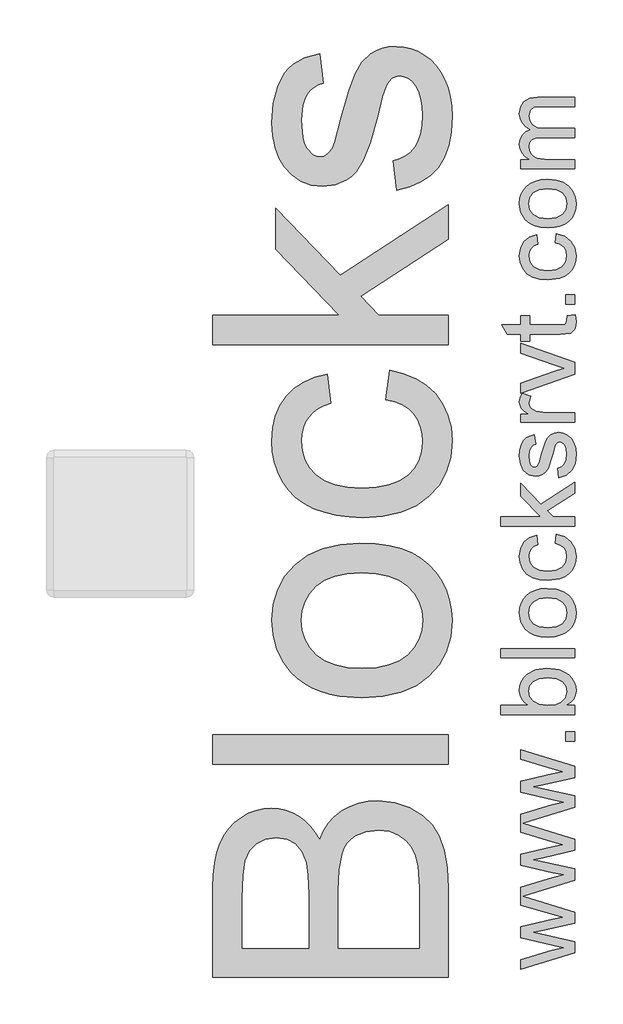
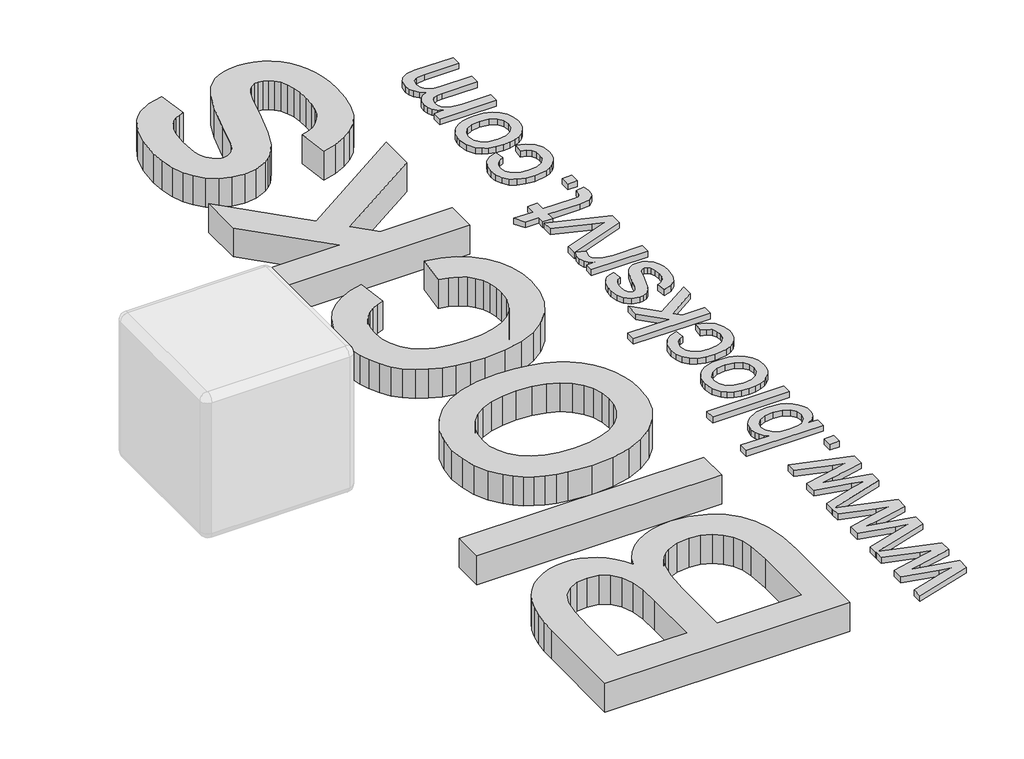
# One storey, part 6 of 6: 2 proxies.
"""IFC4 building model written with IfcOpenShell, lengths in millimetres."""

from ifc_helpers import new_model, si_unit, origin, origin_with_axes, place, context, project, spatial, polyline, outline, extrude, element, save

model = new_model("IFC4")

# Units and contexts
model_context = context("Model", 3, world=origin())
ifc_project = project(units=[si_unit("LENGTHUNIT", "METRE", prefix="MILLI")], contexts=[model_context])

# Site, building, storey
site = spatial("IfcSite", under=ifc_project)
building = spatial("IfcBuilding", under=site)
storey = spatial("IfcBuildingStorey", under=building, Name="PORTOBELLO - SHOWROOM", Elevation=0.0)

# Proxies
placement = place(None, origin())
element("IfcBuildingElementProxy", 1, Name="25mm Arial", ObjectType="25mm Arial", at=placement, inside=storey, context=model_context, shape_type="SweptSolid", body=[
    extrude(outline(polyline([(2978.9669276, 6669.5193044), (2800.9469451, 6615.1308855), (2978.9669276, 6560.5649202), (2978.9669276, 6522.6730747), (2870.809621, 6498.5154903), (2837.0871048, 6491.5257324), (2978.9669276, 6460.4397038), (2978.9669276, 6422.3026036), (2800.9469451, 6367.9141848), (2978.9669276, 6313.3482194), (2978.9669276, 6275.4563739), (2870.809621, 6251.2987896), (2837.0871048, 6244.3090316), (2978.9669276, 6213.2230031), (2978.9669276, 6175.0859029), (2794.5354207, 6118.738644), (2794.5354207, 6151.2962005), (2902.1409042, 6183.1793068), (2940.5845727, 6192.682925), (2903.5511186, 6200.4697606), (2794.5354207, 6225.7923046), (2794.5354207, 6263.0710134), (2903.2445502, 6288.3935574), (2936.7831255, 6295.3220016), (2901.4051403, 6305.2548155), (2794.5354207, 6337.1379218), (2794.5354207, 6365.9553447), (2794.5354207, 6369.8794193), (2794.5354207, 6398.5129013), (2902.1409042, 6430.3960075), (2940.5845727, 6439.8996257), (2903.5511186, 6447.6864613), (2794.5354207, 6473.0090053), (2794.5354207, 6510.2877142), (2903.2445502, 6535.6102582), (2936.7831255, 6542.5387024), (2901.4051403, 6552.4715163), (2794.5354207, 6584.3546225), (2794.5354207, 6613.1720455), (2794.5354207, 6617.0961201), (2794.5354207, 6645.7296021), (2902.1409042, 6677.6127083), (2940.5845727, 6687.1163265), (2903.5511186, 6694.9031621), (2794.5354207, 6720.2257061), (2794.5354207, 6757.5044149), (2903.2445502, 6782.8269589), (2936.7831255, 6789.7554032), (2901.4051403, 6799.688217), (2794.5354207, 6831.5713233), (2794.5354207, 6864.3128209), (2978.9669276, 6807.7816209), (2978.9669276, 6769.8897754), (2870.809621, 6745.7321911), (2837.0871048, 6738.7424332), (2978.9669276, 6707.6564046), (2978.9669276, 6669.5193044)])), origin_with_axes(), (0.0, 0.0, 1.0), 20.0),
    extrude(outline(polyline([(2978.9669276, 6893.7433805), (2947.5743307, 6893.7433805), (2947.5743307, 6925.1359774), (2978.9669276, 6925.1359774), (2978.9669276, 6893.7433805)])), origin_with_axes(), (0.0, 0.0, 1.0), 20.0),
    extrude(outline(polyline([(2978.9669276, 7015.3896935), (2978.9669276, 6983.9970966), (2727.8261522, 6983.9970966), (2727.8261522, 7015.3896935), (2820.9616106, 7015.3896935), (2807.6833699, 7025.713382), (2798.1989122, 7037.3706427), (2792.5082376, 7050.3614757), (2790.611346, 7064.6858809), (2792.3204645, 7080.8573603), (2797.4478198, 7096.1397915), (2805.6715152, 7109.6594548), (2816.669654, 7120.5426305), (2846.5600661, 7135.5338218), (2883.9920592, 7140.9600812), (2925.8999498, 7135.3422166), (2942.8301858, 7128.3198858), (2957.0779489, 7118.4886227), (2968.3711597, 7106.6876581), (2976.4377389, 7093.7562227), (2981.2776864, 7079.6943167), (2982.8910022, 7064.5019399), (2980.8101697, 7049.7061859), (2974.567672, 7036.5888935), (2964.1635094, 7025.1500627), (2949.5976816, 7015.3896935), (2978.9669276, 7015.3896935)]), holes=[polyline([(2885.4635871, 7015.3896935), (2911.6445225, 7017.5356718), (2929.3641719, 7023.9736068), (2945.9648469, 7040.4209976), (2951.4984053, 7061.8041386), (2947.4210465, 7079.9223269), (2935.1889701, 7095.4040275), (2914.8788183, 7106.0266201), (2886.5672331, 7109.5674843), (2857.8417807, 7106.1722401), (2837.7615551, 7095.9865073), (2825.943346, 7080.9876518), (2822.003943, 7063.1530392), (2826.0813017, 7045.034851), (2838.3133781, 7029.5531504), (2858.2556479, 7018.9305577), (2885.4635871, 7015.3896935)])]), origin_with_axes(), (0.0, 0.0, 1.0), 20.0),
    extrude(outline(polyline([(2978.9669276, 7176.2767528), (2727.8261522, 7176.2767528), (2727.8261522, 7207.6693497), (2978.9669276, 7207.6693497), (2978.9669276, 7176.2767528)])), origin_with_axes(), (0.0, 0.0, 1.0), 20.0),
    extrude(outline(polyline([(2886.7511741, 7246.9100958), (2862.8656692, 7248.607718), (2842.2834379, 7253.7005843), (2825.0044805, 7262.1886949), (2811.0287968, 7274.0720498), (2795.7157087, 7299.2413096), (2790.611346, 7329.3769764), (2792.1652643, 7346.696171), (2796.8270189, 7362.3560644), (2804.59661, 7376.3566568), (2815.4740376, 7388.6979481), (2829.0914195, 7398.7706338), (2845.080874, 7405.9654093), (2863.4424008, 7410.2822746), (2884.1760002, 7411.7212297), (2915.8904938, 7409.1767125), (2940.0327498, 7401.5431611), (2958.112617, 7389.0428375), (2971.6399445, 7371.8980037), (2980.0782378, 7351.5342024), (2982.8910022, 7329.3769764), (2981.3428321, 7311.804863), (2976.6983219, 7295.9993496), (2968.9574716, 7281.9604361), (2958.1202812, 7269.6881227), (2944.3706916, 7259.7227359), (2927.8926439, 7252.6046026), (2908.6861381, 7248.3337225), (2886.7511741, 7246.9100958)]), holes=[polyline([(2886.6898605, 7278.3026928), (2915.1010804, 7281.9355275), (2935.3422543, 7292.8340316), (2947.4593675, 7309.2354372), (2951.4984053, 7329.3769764), (2947.4363749, 7349.4265452), (2935.2502838, 7365.7972939), (2914.7408626, 7376.6957981), (2885.7088418, 7380.3286328), (2858.1253564, 7376.6728054), (2838.1600939, 7365.7053234), (2826.0429807, 7349.311582), (2822.003943, 7329.3769764), (2826.0276523, 7309.2354372), (2838.0987803, 7292.8340316), (2858.2939689, 7281.9355275), (2886.6898605, 7278.3026928)])]), origin_with_axes(), (0.0, 0.0, 1.0), 20.0),
    extrude(outline(polyline([(2912.2576591, 7564.7601397), (2916.1817337, 7596.1527366), (2944.1024443, 7587.4002108), (2965.2020096, 7570.9528199), (2978.468754, 7548.358734), (2982.8910022, 7521.1661232), (2981.3485803, 7503.5595209), (2976.7213146, 7487.773168), (2969.009205, 7473.8070645), (2958.2122517, 7461.6612105), (2944.533556, 7451.8299474), (2928.1762196, 7444.8076166), (2887.4256244, 7439.189752), (2859.4895854, 7441.5886492), (2835.2783516, 7448.7853407), (2815.7269564, 7460.8947897), (2801.7704332, 7478.0319593), (2793.4011178, 7498.5337163), (2790.611346, 7520.7369276), (2794.4434502, 7547.2627523), (2805.9397625, 7568.4696165), (2824.4871464, 7583.6830698), (2849.4724653, 7592.228662), (2853.3965399, 7560.8360651), (2839.7005998, 7555.1415583), (2829.882749, 7546.2740694), (2823.9736445, 7534.7241076), (2822.003943, 7520.9821822), (2825.8820323, 7500.695023), (2837.5163004, 7484.5925216), (2857.5352123, 7474.0848921), (2886.5672331, 7470.5823489), (2915.9901285, 7474.00825), (2936.0780183, 7484.2859532), (2947.6433085, 7500.0972148), (2951.4984053, 7520.1237909), (2949.0918439, 7536.3795766), (2941.8721597, 7549.7076347), (2929.6554118, 7559.4028581), (2912.2576591, 7564.7601397)])), origin_with_axes(), (0.0, 0.0, 1.0), 20.0),
    extrude(outline(polyline([(2978.9669276, 7623.6212589), (2727.8261522, 7623.6212589), (2727.8261522, 7655.0138558), (2862.7775308, 7655.0138558), (2794.5354207, 7725.4019442), (2794.5354207, 7768.8120197), (2863.6359221, 7697.5042263), (2978.9669276, 7772.7360943), (2978.9669276, 7736.0705221), (2885.4635871, 7675.0021109), (2904.9000192, 7655.0138558), (2978.9669276, 7655.0138558), (2978.9669276, 7623.6212589)])), origin_with_axes(), (0.0, 0.0, 1.0), 20.0),
    extrude(outline(polyline([(2924.029883, 7788.4323927), (2920.1058083, 7819.8249897), (2933.5335012, 7824.7760682), (2943.4050014, 7834.3563285), (2949.4750543, 7848.6270842), (2951.4984053, 7867.649649), (2949.6436669, 7886.4422876), (2944.0794517, 7899.6553826), (2936.0167046, 7907.472875), (2926.6663706, 7910.0787058), (2918.6649372, 7907.4575466), (2912.5642274, 7899.5940689), (2903.6124322, 7867.281767), (2888.2533589, 7820.0089307), (2880.5355012, 7808.0451016), (2870.3191117, 7799.3768821), (2858.2556479, 7794.111571), (2844.9965677, 7792.3564674), (2821.6054041, 7797.9973246), (2803.7324705, 7813.3870547), (2794.4434502, 7833.344653), (2790.611346, 7860.3533228), (2792.1518519, 7880.7861019), (2796.7733695, 7898.5517366), (2804.0237105, 7912.8378208), (2813.4506866, 7922.8319483), (2825.7517408, 7929.4538242), (2841.624316, 7933.6231535), (2845.5483907, 7902.2305566), (2835.6692262, 7898.2681609), (2828.2272801, 7890.4276759), (2823.5597772, 7878.6324594), (2822.003943, 7862.8058694), (2823.4907994, 7844.7796517), (2827.9513686, 7832.7621732), (2834.3893035, 7826.0023415), (2841.808257, 7823.7490643), (2850.9439933, 7827.4891979), (2857.8724375, 7839.2001081), (2864.5556271, 7866.2394347), (2879.3322205, 7912.3166546), (2886.3986205, 7924.4874173), (2896.0708513, 7933.715124), (2908.3795697, 7939.532258), (2923.3554326, 7941.4713027), (2938.8371333, 7939.1950329), (2953.3991289, 7932.3662233), (2965.8994525, 7921.2454572), (2975.1961371, 7906.0933175), (2980.9672859, 7887.7911883), (2982.8910022, 7867.2204534), (2979.1815254, 7835.5672734), (2968.0530951, 7812.4673498), (2949.6283385, 7797.0469628), (2924.029883, 7788.4323927)])), origin_with_axes(), (0.0, 0.0, 1.0), 20.0),
    extrude(outline(polyline([(2978.9669276, 8139.8823255), (2794.5354207, 8074.8898396), (2794.5354207, 8108.0605329), (2905.0226465, 8147.4239064), (2942.1787281, 8159.2574439), (2907.1073112, 8170.8457267), (2794.5354207, 8210.3930412), (2794.5354207, 8243.6250481), (2978.9669276, 8179.5522673), (2978.9669276, 8139.8823255)])), origin_with_axes(), (0.0, 0.0, 1.0), 20.0),
    extrude(outline(polyline([(2978.9669276, 7976.7879743), (2794.5354207, 7976.7879743), (2794.5354207, 8004.2564966), (2821.820002, 8004.2564966), (2806.0010762, 8014.4039083), (2796.681399, 8023.7542423), (2790.611346, 8043.3746154), (2793.0332358, 8059.0096002), (2800.2989052, 8074.8898396), (2828.4418779, 8064.4052028), (2822.003943, 8042.3322831), (2823.552113, 8032.9589564), (2828.1966232, 8024.5819768), (2845.3644497, 8013.2696055), (2882.0300218, 8008.1805712), (2978.9669276, 8008.1805712), (2978.9669276, 7976.7879743)])), origin_with_axes(), (0.0, 0.0, 1.0), 20.0),
    extrude(outline(polyline([(2952.7859923, 8337.8028389), (2979.8866326, 8341.7269135), (2982.8910022, 8318.2437795), (2981.5880868, 8303.1759461), (2977.6793406, 8291.9402168), (2964.0063931, 8278.8190923), (2928.3831532, 8275.017645), (2825.9280176, 8275.017645), (2825.9280176, 8251.4731973), (2794.5354207, 8251.4731973), (2794.5354207, 8275.017645), (2749.7151309, 8275.017645), (2731.2597175, 8306.4102419), (2794.5354207, 8306.4102419), (2794.5354207, 8337.8028389), (2825.9280176, 8337.8028389), (2825.9280176, 8306.4102419), (2927.4634482, 8306.4102419), (2943.650256, 8308.0657109), (2949.3830838, 8313.4306567), (2951.4984053, 8324.1298914), (2952.7859923, 8337.8028389)])), origin_with_axes(), (0.0, 0.0, 1.0), 20.0),
    extrude(outline(polyline([(2978.9669276, 8377.043585), (2947.5743307, 8377.043585), (2947.5743307, 8408.4361819), (2978.9669276, 8408.4361819), (2978.9669276, 8377.043585)])), origin_with_axes(), (0.0, 0.0, 1.0), 20.0),
    extrude(outline(polyline([(2912.2576591, 8585.0195396), (2916.1817337, 8616.4121365), (2944.1024443, 8607.6596107), (2965.2020096, 8591.2122199), (2978.468754, 8568.618134), (2982.8910022, 8541.4255232), (2981.3485803, 8523.8189208), (2976.7213146, 8508.0325679), (2969.009205, 8494.0664645), (2958.2122517, 8481.9206105), (2944.533556, 8472.0893474), (2928.1762196, 8465.0670166), (2887.4256244, 8459.4491519), (2859.4895854, 8461.8480491), (2835.2783516, 8469.0447406), (2815.7269564, 8481.1541897), (2801.7704332, 8498.2913593), (2793.4011178, 8518.7931163), (2790.611346, 8540.9963275), (2794.4434502, 8567.5221522), (2805.9397625, 8588.7290164), (2824.4871464, 8603.9424698), (2849.4724653, 8612.4880619), (2853.3965399, 8581.095465), (2839.7005998, 8575.4009583), (2829.882749, 8566.5334694), (2823.9736445, 8554.9835076), (2822.003943, 8541.2415822), (2825.8820323, 8520.954423), (2837.5163004, 8504.8519215), (2857.5352123, 8494.344292), (2886.5672331, 8490.8417489), (2915.9901285, 8494.2676499), (2936.0780183, 8504.5453532), (2947.6433085, 8520.3566148), (2951.4984053, 8540.3831909), (2949.0918439, 8556.6389765), (2941.8721597, 8569.9670347), (2929.6554118, 8579.6622581), (2912.2576591, 8585.0195396)])), origin_with_axes(), (0.0, 0.0, 1.0), 20.0),
    extrude(outline(polyline([(2886.7511741, 8636.0325096), (2862.8656692, 8637.7301317), (2842.2834379, 8642.8229981), (2825.0044805, 8651.3111087), (2811.0287968, 8663.1944636), (2795.7157087, 8688.3637234), (2790.611346, 8718.4993902), (2792.1652643, 8735.8185848), (2796.8270189, 8751.4784782), (2804.59661, 8765.4790706), (2815.4740376, 8777.8203619), (2829.0914195, 8787.8930476), (2845.080874, 8795.0878231), (2863.4424008, 8799.4046884), (2884.1760002, 8800.8436435), (2915.8904938, 8798.2991263), (2940.0327498, 8790.6655749), (2958.112617, 8778.1652513), (2971.6399445, 8761.0204175), (2980.0782378, 8740.6566162), (2982.8910022, 8718.4993902), (2981.3428321, 8700.9272768), (2976.6983219, 8685.1217634), (2968.9574716, 8671.0828499), (2958.1202812, 8658.8105365), (2944.3706916, 8648.8451497), (2927.8926439, 8641.7270163), (2908.6861381, 8637.4561363), (2886.7511741, 8636.0325096)]), holes=[polyline([(2886.6898605, 8667.4251065), (2915.1010804, 8671.0579412), (2935.3422543, 8681.9564454), (2947.4593675, 8698.357851), (2951.4984053, 8718.4993902), (2947.4363749, 8738.5489589), (2935.2502838, 8754.9197077), (2914.7408626, 8765.8182118), (2885.7088418, 8769.4510465), (2858.1253564, 8765.7952192), (2838.1600939, 8754.8277372), (2826.0429807, 8738.4339958), (2822.003943, 8718.4993902), (2826.0276523, 8698.357851), (2838.0987803, 8681.9564454), (2858.2939689, 8671.0579412), (2886.6898605, 8667.4251065)])]), origin_with_axes(), (0.0, 0.0, 1.0), 20.0),
    extrude(outline(polyline([(2978.9669276, 8836.160315), (2794.5354207, 8836.160315), (2794.5354207, 8867.5529119), (2824.8856853, 8867.5529119), (2810.9444905, 8876.9952165), (2800.0229938, 8889.1353223), (2792.964258, 8903.5593622), (2790.611346, 8919.8534689), (2793.0102432, 8937.3125353), (2800.2069348, 8951.3073795), (2811.7262397, 8961.7613595), (2827.0929772, 8968.5978333), (2811.1322636, 8980.0404962), (2799.7317538, 8993.0926428), (2792.891448, 9007.7542731), (2790.611346, 9024.0253872), (2794.4051291, 9047.6234844), (2805.7864783, 9065.0748865), (2825.0619621, 9075.8584275), (2852.5381486, 9079.4529411), (2978.9669276, 9079.4529411), (2978.9669276, 9048.0603442), (2866.0271551, 9048.0603442), (2839.8155629, 9045.1479451), (2826.9090362, 9034.6019946), (2822.003943, 9016.6677473), (2825.1462683, 8999.6608692), (2834.5732445, 8985.7963165), (2850.9286648, 8976.576274), (2874.8563229, 8973.5029265), (2978.9669276, 8973.5029265), (2978.9669276, 8942.1103296), (2862.5322761, 8942.1103296), (2844.7819698, 8940.2939123), (2832.1206978, 8934.8446602), (2824.5331317, 8925.2567357), (2822.003943, 8911.024301), (2823.6900688, 8898.9301804), (2828.7484462, 8887.7864217), (2837.0564479, 8878.5893718), (2848.4914466, 8872.3353779), (2885.9540965, 8867.5529119), (2978.9669276, 8867.5529119), (2978.9669276, 8836.160315)])), origin_with_axes(), (0.0, 0.0, 1.0), 20.0),
])
element("IfcBuildingElementProxy", 2, Name="80mm Arial", ObjectType="80mm Arial", at=placement, inside=storey, context=model_context, shape_type="SweptSolid", body=[
    extrude(outline(polyline([(2549.5235049, 6091.5414202), (1750.1348066, 6091.5414202), (1750.1348066, 6396.58159), (1751.6046298, 6440.8287595), (1756.0140997, 6480.4773948), (1763.363216, 6515.5274959), (1773.651979, 6545.9790628), (1786.9901678, 6572.6066496), (1803.4875618, 6596.1848105), (1823.144161, 6616.7135455), (1845.9599655, 6634.1928547), (1870.6481174, 6648.1531264), (1895.9217591, 6658.124749), (1921.7808906, 6664.1077226), (1948.2255118, 6666.1020471), (1972.6514132, 6664.4248629), (1996.35765, 6659.3933102), (2019.3442223, 6651.007389), (2041.61113, 6639.2670993), (2062.4631042, 6624.1358481), (2081.2048757, 6605.5770422), (2097.8364445, 6583.5906816), (2112.3578105, 6558.1767663), (2125.21419, 6588.3355883), (2141.9250439, 6614.7985061), (2162.490372, 6637.5655197), (2186.9101745, 6656.6366292), (2214.4403913, 6671.7068919), (2244.3369627, 6682.4713652), (2276.5998885, 6688.9300493), (2311.2291688, 6691.0829439), (2366.9726739, 6685.2036508), (2418.6665415, 6667.5657715), (2462.627065, 6641.2431273), (2495.170538, 6609.3095395), (2518.7365012, 6570.203702), (2535.7644953, 6522.3643087), (2546.0837525, 6464.2300537), (2549.5235049, 6394.2396309), (2549.5235049, 6091.5414202)]), holes=[polyline([(2074.8864653, 6191.4650075), (2074.8864653, 6373.9426522), (2072.7396694, 6437.7610371), (2066.299282, 6480.5017902), (2051.4912699, 6517.8023676), (2029.3158449, 6544.61292), (2000.1145426, 6560.7870749), (1964.2288989, 6566.1784598), (1929.3922576, 6561.153006), (1899.0443712, 6546.0766444), (1875.356431, 6521.6324465), (1860.4996281, 6488.5034838), (1852.6687024, 6437.6634555), (1850.0583939, 6360.086061), (1850.0583939, 6191.4650075), (2074.8864653, 6191.4650075)]), polyline([(2449.5999176, 6191.4650075), (2449.5999176, 6396.3864267), (2445.6966525, 6470.5484642), (2437.036283, 6504.9703835), (2423.9359494, 6533.2934511), (2405.1758814, 6556.3227154), (2379.5363086, 6574.8632247), (2348.1638151, 6587.0853237), (2312.2049851, 6591.1593566), (2270.4400482, 6586.3778569), (2234.530009, 6572.0333575), (2219.2645831, 6560.988337), (2206.4508955, 6546.9792745), (2196.0889464, 6530.00617), (2188.1787356, 6510.0690236), (2178.1522233, 6457.7896663), (2174.8100526, 6386.6282639), (2174.8100526, 6191.4650075), (2449.5999176, 6191.4650075)])]), origin_with_axes(), (0.0, 0.0, 1.0), 100.0),
    extrude(outline(polyline([(2549.5235049, 6815.987428), (1750.1348066, 6815.987428), (1750.1348066, 6915.9110153), (2549.5235049, 6915.9110153), (2549.5235049, 6815.987428)])), origin_with_axes(), (0.0, 0.0, 1.0), 100.0),
    extrude(outline(polyline([(2255.9979672, 7040.8154995), (2179.9696812, 7046.2190821), (2145.8984458, 7052.9735604), (2114.4558155, 7062.4298301), (2085.6417904, 7074.5878911), (2059.4563703, 7089.4477434), (2035.8995554, 7107.0093871), (2014.9713455, 7127.2728221), (1986.5384986, 7165.3540525), (1966.2293223, 7207.3873388), (1954.0438164, 7253.3726811), (1949.9819812, 7303.3100794), (1954.9281499, 7358.4376004), (1969.7666563, 7408.2835159), (1994.4975002, 7452.8478257), (2029.1206816, 7492.13053), (2072.4652211, 7524.1921937), (2123.3601391, 7547.093382), (2181.8054355, 7560.8340951), (2247.8011105, 7565.4143327), (2301.2880404, 7563.389514), (2348.7493049, 7557.3150576), (2390.1849037, 7547.1909637), (2425.5948371, 7533.0172322), (2456.1805787, 7514.9707298), (2483.1436023, 7493.2283233), (2506.483908, 7467.7900126), (2526.2014958, 7438.6557977), (2541.8694459, 7406.9600651), (2553.0608389, 7373.8372011), (2559.7756747, 7339.2872059), (2562.0139533, 7303.3100794), (2557.0860811, 7247.3775098), (2542.3024644, 7197.0680816), (2517.6631033, 7152.3817948), (2483.1679977, 7113.3186492), (2439.4026375, 7081.5985212), (2386.9525123, 7058.9412869), (2325.8176222, 7045.3469463), (2255.9979672, 7040.8154995)]), holes=[polyline([(2255.802804, 7140.7390867), (2304.2703789, 7143.6299425), (2346.2365779, 7152.3025097), (2381.7014009, 7166.7567884), (2410.664848, 7186.9927785), (2433.1635121, 7211.6077442), (2449.2339865, 7239.1989496), (2458.8762711, 7269.7663947), (2462.090366, 7303.3100794), (2458.8579746, 7336.6829962), (2449.1608003, 7367.1284642), (2432.9988431, 7394.6464834), (2410.3721031, 7419.2370537), (2381.12201, 7439.4730438), (2345.0899938, 7453.9273225), (2302.2760544, 7462.5998897), (2252.6801919, 7465.4907454), (2205.7495276, 7462.5815932), (2164.8811219, 7453.8541363), (2130.0749749, 7439.3083748), (2101.3310865, 7418.9443088), (2078.8324224, 7394.2622557), (2062.761948, 7366.7625331), (2053.1196633, 7336.445141), (2049.9055684, 7303.3100794), (2053.1074656, 7269.7663947), (2062.7131571, 7239.1989496), (2078.722643, 7211.6077442), (2101.1359233, 7186.9927785), (2130.0139864, 7166.7567884), (2165.4178208, 7152.3025097), (2207.3474267, 7143.6299425), (2255.802804, 7140.7390867)])]), origin_with_axes(), (0.0, 0.0, 1.0), 100.0),
    extrude(outline(polyline([(2337.1858819, 8052.5418208), (2349.6763303, 8152.4654081), (2396.8265533, 8141.5972542), (2438.5487982, 8124.6058532), (2474.8430651, 8101.491205), (2505.7093538, 8072.2533097), (2530.3426161, 8038.1241352), (2547.9378035, 8000.3356497), (2558.4949159, 7958.8878531), (2562.0139533, 7913.7807455), (2557.1043777, 7857.7383966), (2542.3756506, 7807.4899569), (2517.8277723, 7763.0354264), (2483.4607426, 7724.3748051), (2439.9210399, 7693.0815967), (2387.8551424, 7670.729305), (2327.2630501, 7657.31793), (2258.1447631, 7652.8474716), (2212.2021127, 7654.7564122), (2169.2235043, 7660.483234), (2129.2089379, 7670.027937), (2092.1584135, 7683.3905213), (2058.8159909, 7700.6624694), (2029.9257301, 7721.9352644), (2005.4876311, 7747.2089061), (1985.5016938, 7776.4833946), (1969.9618195, 7808.435279), (1958.8619093, 7841.7411084), (1952.2019632, 7876.400883), (1949.9819812, 7912.4146027), (1953.031407, 7956.7471561), (1962.1796847, 7996.8471065), (1977.4268141, 8032.7144537), (1998.7727953, 8064.3491978), (2025.7297201, 8091.2146398), (2057.8096803, 8112.7740808), (2095.0126761, 8129.0275208), (2137.3387073, 8139.9749597), (2149.8291557, 8040.0513724), (2126.48885, 8032.250941), (2106.2345633, 8021.9255849), (2089.0662956, 8009.0753043), (2074.9840469, 7993.700099), (2064.0122126, 7976.1902956), (2056.1751881, 7956.9362205), (2051.4729733, 7935.9378739), (2049.9055684, 7913.1952557), (2052.9915874, 7879.2429479), (2062.2496444, 7848.6206132), (2077.6797394, 7821.3282516), (2099.2818723, 7797.365863), (2127.5561491, 7777.8556362), (2163.0026755, 7763.9197599), (2205.6214517, 7755.5582342), (2255.4124775, 7752.7710589), (2305.953662, 7755.4972457), (2349.0664451, 7763.6758059), (2384.7508268, 7777.3067396), (2413.006807, 7796.3900467), (2434.4808641, 7819.8767249), (2449.8194763, 7846.7177715), (2459.0226436, 7876.9131866), (2462.090366, 7910.4629701), (2460.1753266, 7937.49918), (2454.4302082, 7962.2056285), (2444.8550109, 7984.5823156), (2431.4497348, 8004.6292413), (2414.0680072, 8021.7853114), (2392.5634559, 8035.4894313), (2366.9360808, 8045.7416011), (2337.1858819, 8052.5418208)])), origin_with_axes(), (0.0, 0.0, 1.0), 100.0),
    extrude(outline(polyline([(2549.5235049, 8239.898547), (1750.1348066, 8239.898547), (1750.1348066, 8339.8221343), (2179.689134, 8339.8221343), (1962.4724296, 8563.8695526), (1962.4724296, 8702.0451382), (2182.4214196, 8475.070271), (2549.5235049, 8714.5355866), (2549.5235049, 8597.8279593), (2251.8995389, 8403.4453559), (2313.7662911, 8339.8221343), (2549.5235049, 8339.8221343), (2549.5235049, 8239.898547)])), origin_with_axes(), (0.0, 0.0, 1.0), 100.0),
    extrude(outline(polyline([(2374.6572271, 8764.4973803), (2362.1667787, 8864.4209675), (2384.9520889, 8870.4588308), (2404.9075319, 8880.1804005), (2422.0331076, 8893.5856767), (2436.3288162, 8910.6746593), (2447.5994942, 8931.4961392), (2455.6499786, 8956.0989073), (2460.4802692, 8984.4829634), (2462.090366, 9016.6483076), (2460.6144439, 9048.7770587), (2456.1866775, 9076.4658457), (2448.8070669, 9099.7146686), (2438.475612, 9118.5235274), (2426.1559314, 9133.0387946), (2412.8116438, 9143.4068426), (2398.442749, 9149.6276714), (2383.0492472, 9151.701281), (2369.5585871, 9149.6154737), (2357.5804422, 9143.3580518), (2347.1148126, 9132.9290153), (2338.1616982, 9118.3283642), (2325.4760865, 9080.9058097), (2309.6678628, 9015.477328), (2283.2964277, 8924.2872965), (2260.779467, 8865.0064573), (2236.2132921, 8826.9252269), (2220.9478662, 8811.8183711), (2203.6942145, 8799.3340215), (2165.2958438, 8782.5743769), (2123.0917896, 8776.9878287), (2084.3762786, 8781.4765836), (2048.6370073, 8794.9428483), (2017.2889092, 8816.1668524), (1991.746918, 8843.9288256), (1975.6703448, 8871.520031), (1962.1796847, 8907.4544656), (1953.031407, 8948.9998438), (1949.9819812, 8993.42388), (1954.885458, 9058.4620353), (1969.5958884, 9115.0105888), (1992.6739435, 9160.4836276), (2006.8110819, 9178.0971114), (2022.6802942, 9192.2952384), (2061.8349225, 9213.37287), (2112.3578105, 9226.6439715), (2124.8482589, 9126.7203842), (2108.1557016, 9121.957181), (2093.4025792, 9114.1079587), (2080.5888917, 9103.1727175), (2069.714639, 9089.1514573), (2061.0481706, 9071.9831896), (2054.8578361, 9051.6069259), (2049.9055684, 9001.2304103), (2054.6382774, 8943.8524129), (2060.5541636, 8922.3356639), (2068.8364043, 8905.6004147), (2089.3285462, 8884.0836656), (2100.7455967, 8878.7044784), (2112.9433003, 8876.911416), (2128.3124067, 8879.8876556), (2142.0226255, 8888.8163746), (2154.2691198, 8904.0878994), (2164.0760735, 8926.0925566), (2185.3488684, 9012.1595527), (2211.451954, 9100.4465308), (2232.3832132, 9158.8247399), (2254.8757785, 9197.5646463), (2285.6627822, 9226.9367164), (2304.1910939, 9237.7377828), (2324.8418059, 9245.4528303), (2347.6149184, 9250.0818588), (2372.5104313, 9251.6248683), (2397.5157236, 9249.8135093), (2421.7891536, 9244.3794324), (2445.3307214, 9235.3226375), (2468.140427, 9222.6431247), (2489.3095414, 9206.5482549), (2507.9293359, 9187.2453891), (2523.9998103, 9164.7345272), (2537.5209646, 9139.0156693), (2548.2366472, 9110.7901834), (2555.8907062, 9080.7594373), (2560.4831415, 9048.9234311), (2562.0139533, 9015.2821648), (2559.0621091, 8961.5024899), (2550.2065763, 8914.5291336), (2535.447355, 8874.3620959), (2514.7844453, 8841.0013768), (2488.3154286, 8813.7517071), (2456.1378867, 8791.9178178), (2418.2518196, 8775.4997088), (2374.6572271, 8764.4973803)])), origin_with_axes(), (0.0, 0.0, 1.0), 100.0),
])

save(model, "model.ifc")
